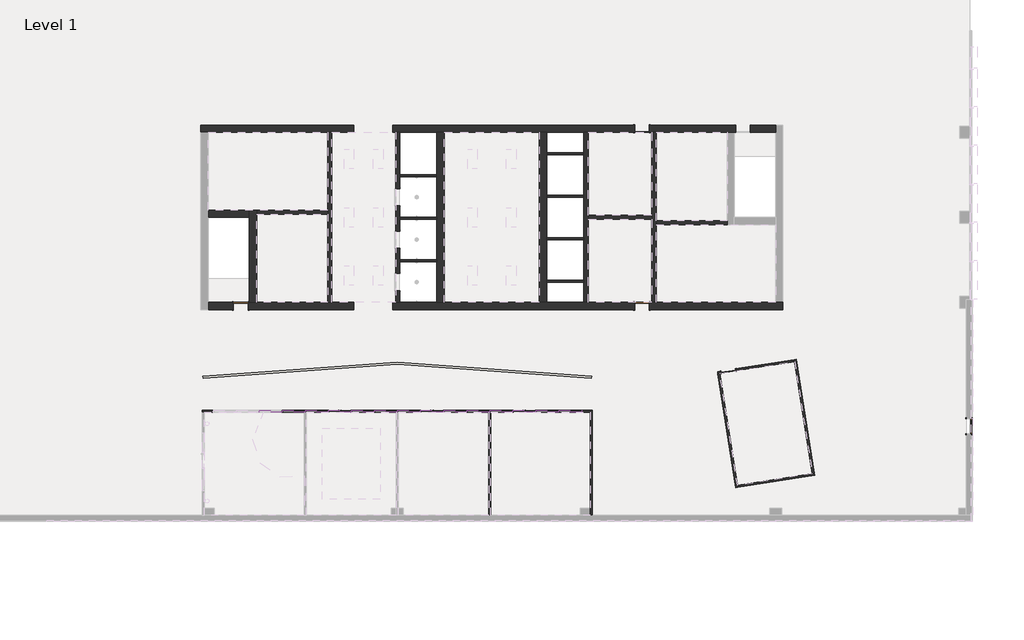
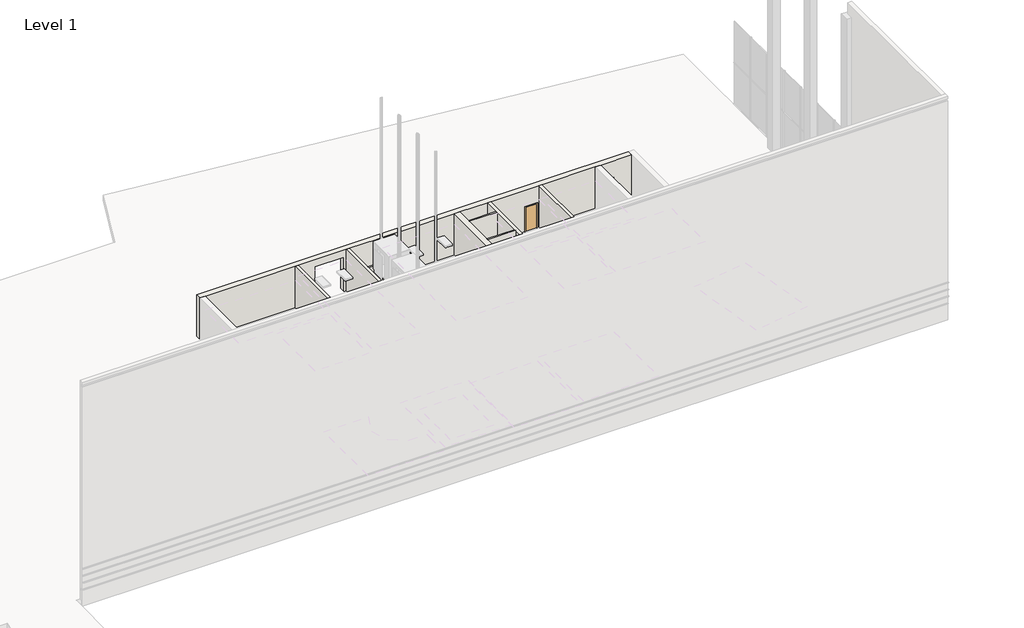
# One storey, part 7 of 23: 38 members, 28 walls, 10 plates, 8 doors.
"""IFC4 building model written with IfcOpenShell, lengths in millimetres."""

from ifc_helpers import new_model, si_unit, point, frame, frame_2d, origin, origin_with_axes, place, context, project, spatial, polyline, circle_curve, trimmed, segment, composite_curve, outline, extrude, faceted_brep, transform, mapped, element, save
from components import curtain_wall_dbl_glass_curtain_wall_dbl_glass_523d1701, door_a1797ceb, door_3c99239a, door_aec9db07, door_e057ad39, member_5adcf121, member_e7ed5742, member_19b6149e, member_c3403f11, system_panel_glazed_9bc9b24f, system_panel_glazed_76e4750d

model = new_model("IFC4")

# Units and contexts
model_context = context("Model", 3, world=origin())
ifc_project = project(units=[si_unit("LENGTHUNIT", "METRE", prefix="MILLI")], contexts=[model_context])

# Site, building, storey
site = spatial("IfcSite", under=ifc_project)
building = spatial("IfcBuilding", under=site)
storey = spatial("IfcBuildingStorey", under=building, Name="Level 1", Elevation=0.0)

# Doors
placement = place(None, origin())
curtain_wall_dbl_glass_curtain_wall_dbl_glass_shape = curtain_wall_dbl_glass_curtain_wall_dbl_glass_523d1701(model_context)
element("IfcDoor", 1, ObjectType="Curtain Wall Dbl Glass : Curtain Wall Dbl Glass", at=placement, inside=storey, context=model_context, shape_type="MappedRepresentation", body=[
    mapped(curtain_wall_dbl_glass_curtain_wall_dbl_glass_shape, transform((-24482.1740426, -21198.8103492, -25.4), x_axis=(-1.0, 0.0, 0.0), y_axis=(0.0, -1.0, 0.0), z_axis=(0.0, 0.0, 1.0))),
])
element("IfcDoor", 2, ObjectType="Curtain Wall Dbl Glass : Curtain Wall Dbl Glass", at=placement, inside=storey, context=model_context, shape_type="MappedRepresentation", body=[
    mapped(curtain_wall_dbl_glass_curtain_wall_dbl_glass_shape, transform((-18697.3240426, -21198.8103492, -25.4), x_axis=(-1.0, 0.0, 0.0), y_axis=(0.0, -1.0, 0.0), z_axis=(0.0, 0.0, 1.0))),
])
element("IfcDoor", 3, ObjectType="Curtain Wall Dbl Glass : Curtain Wall Dbl Glass", at=placement, inside=storey, context=model_context, shape_type="MappedRepresentation", body=[
    mapped(curtain_wall_dbl_glass_curtain_wall_dbl_glass_shape, transform((-12912.4740426, -21198.8103492, -25.4), x_axis=(-1.0, 0.0, 0.0), y_axis=(0.0, -1.0, 0.0), z_axis=(0.0, 0.0, 1.0))),
])
door_shape = door_a1797ceb(model_context)
element("IfcDoor", 4, ObjectType="Single-Flush : 36\" x 84\"", at=placement, inside=storey, context=model_context, shape_type="MappedRepresentation", body=[
    mapped(door_shape, transform((-99.7033757, -18682.6442583, 0.0), x_axis=(-0.9876883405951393, -0.15643446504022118, 0.0), y_axis=(0.15643446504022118, -0.9876883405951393, 0.0), z_axis=(0.0, 0.0, 1.0))),
])
door_2_shape = door_3c99239a(model_context)
element("IfcDoor", 5, ObjectType="Single-Flush : 36\" x 84\"", at=placement, inside=storey, context=model_context, shape_type="MappedRepresentation", body=[
    mapped(door_2_shape, transform((-30700.0713641, -14594.8103492, 0.0), x_axis=(1.0, 0.0, 0.0), y_axis=(0.0, 1.0, 0.0), z_axis=(0.0, 0.0, 1.0))),
])
element("IfcDoor", 6, ObjectType="Single-Flush : 36\" x 84\"", at=placement, inside=storey, context=model_context, shape_type="MappedRepresentation", body=[
    mapped(door_2_shape, transform((-5525.0427926, -14594.8103492, 0.0), x_axis=(1.0, 0.0, 0.0), y_axis=(0.0, 1.0, 0.0), z_axis=(0.0, 0.0, 1.0))),
])
door_3_shape = door_aec9db07(model_context)
element("IfcDoor", 7, ObjectType="Single-Flush : 36\" x 84\"", at=placement, inside=storey, context=model_context, shape_type="MappedRepresentation", body=[
    mapped(door_3_shape, transform((-5525.0427926, -3469.6103492, 0.0), x_axis=(1.0, 0.0, 0.0), y_axis=(0.0, 1.0, 0.0), z_axis=(0.0, 0.0, 1.0))),
])
door_4_shape = door_e057ad39(model_context)
element("IfcDoor", 8, ObjectType="Single-Glass 3 : 36\" x 84\"", at=placement, inside=storey, context=model_context, shape_type="MappedRepresentation", body=[
    mapped(door_4_shape, transform((15006.7929088, -22143.3728492, 0.0), x_axis=(0.0, -1.0, 0.0), y_axis=(1.0, 0.0, 0.0), z_axis=(0.0, 0.0, 1.0))),
])

# Members
member_shape = member_5adcf121(model_context)
element("IfcMember", 9, ObjectType="Rectangular Mullion : 2.5\" x 5\" rectangular", at=placement, inside=storey, context=model_context, shape_type="MappedRepresentation", body=[
    mapped(member_shape, transform((-28097.7052926, -21198.8103492, 38.1), x_axis=(1.0, 0.0, 0.0), y_axis=(0.0, -1.0, 0.0), z_axis=(0.0, 0.0, -1.0))),
])
element("IfcMember", 10, ObjectType="Rectangular Mullion : 2.5\" x 5\" rectangular", at=placement, inside=storey, context=model_context, shape_type="MappedRepresentation", body=[
    mapped(member_shape, transform((-26651.4927926, -21198.8103492, 38.1), x_axis=(1.0, 0.0, 0.0), y_axis=(0.0, -1.0, 0.0), z_axis=(0.0, 0.0, -1.0))),
])
element("IfcMember", 11, ObjectType="Rectangular Mullion : 2.5\" x 5\" rectangular", at=placement, inside=storey, context=model_context, shape_type="MappedRepresentation", body=[
    mapped(member_shape, transform((-25205.2802926, -21198.8103492, 38.1), x_axis=(1.0, 0.0, 0.0), y_axis=(0.0, -1.0, 0.0), z_axis=(0.0, 0.0, -1.0))),
])
element("IfcMember", 12, ObjectType="Rectangular Mullion : 2.5\" x 5\" rectangular", at=placement, inside=storey, context=model_context, shape_type="MappedRepresentation", body=[
    mapped(member_shape, transform((-23759.0677926, -21198.8103492, 38.1), x_axis=(1.0, 0.0, 0.0), y_axis=(0.0, -1.0, 0.0), z_axis=(0.0, 0.0, -1.0))),
])
element("IfcMember", 13, ObjectType="Rectangular Mullion : 2.5\" x 5\" rectangular", at=placement, inside=storey, context=model_context, shape_type="MappedRepresentation", body=[
    mapped(member_shape, transform((-22312.8552926, -21198.8103492, 38.1), x_axis=(1.0, 0.0, 0.0), y_axis=(0.0, -1.0, 0.0), z_axis=(0.0, 0.0, -1.0))),
])
element("IfcMember", 14, ObjectType="Rectangular Mullion : 2.5\" x 5\" rectangular", at=placement, inside=storey, context=model_context, shape_type="MappedRepresentation", body=[
    mapped(member_shape, transform((-20866.6427926, -21198.8103492, 38.1), x_axis=(1.0, 0.0, 0.0), y_axis=(0.0, -1.0, 0.0), z_axis=(0.0, 0.0, -1.0))),
])
element("IfcMember", 15, ObjectType="Rectangular Mullion : 2.5\" x 5\" rectangular", at=placement, inside=storey, context=model_context, shape_type="MappedRepresentation", body=[
    mapped(member_shape, transform((-19420.4302926, -21198.8103492, 38.1), x_axis=(1.0, 0.0, 0.0), y_axis=(0.0, -1.0, 0.0), z_axis=(0.0, 0.0, -1.0))),
])
element("IfcMember", 16, ObjectType="Rectangular Mullion : 2.5\" x 5\" rectangular", at=placement, inside=storey, context=model_context, shape_type="MappedRepresentation", body=[
    mapped(member_shape, transform((-17974.2177926, -21198.8103492, 38.1), x_axis=(1.0, 0.0, 0.0), y_axis=(0.0, -1.0, 0.0), z_axis=(0.0, 0.0, -1.0))),
])
element("IfcMember", 17, ObjectType="Rectangular Mullion : 2.5\" x 5\" rectangular", at=placement, inside=storey, context=model_context, shape_type="MappedRepresentation", body=[
    mapped(member_shape, transform((-16528.0052926, -21198.8103492, 38.1), x_axis=(1.0, 0.0, 0.0), y_axis=(0.0, -1.0, 0.0), z_axis=(0.0, 0.0, -1.0))),
])
element("IfcMember", 18, ObjectType="Rectangular Mullion : 2.5\" x 5\" rectangular", at=placement, inside=storey, context=model_context, shape_type="MappedRepresentation", body=[
    mapped(member_shape, transform((-15081.7927926, -21198.8103492, 38.1), x_axis=(1.0, 0.0, 0.0), y_axis=(0.0, -1.0, 0.0), z_axis=(0.0, 0.0, -1.0))),
])
element("IfcMember", 19, ObjectType="Rectangular Mullion : 2.5\" x 5\" rectangular", at=placement, inside=storey, context=model_context, shape_type="MappedRepresentation", body=[
    mapped(member_shape, transform((-13635.5802926, -21198.8103492, 38.1), x_axis=(1.0, 0.0, 0.0), y_axis=(0.0, -1.0, 0.0), z_axis=(0.0, 0.0, -1.0))),
])
element("IfcMember", 20, ObjectType="Rectangular Mullion : 2.5\" x 5\" rectangular", at=placement, inside=storey, context=model_context, shape_type="MappedRepresentation", body=[
    mapped(member_shape, transform((-12189.3677926, -21198.8103492, 38.1), x_axis=(1.0, 0.0, 0.0), y_axis=(0.0, -1.0, 0.0), z_axis=(0.0, 0.0, -1.0))),
])
element("IfcMember", 21, ObjectType="Rectangular Mullion : 2.5\" x 5\" rectangular", at=placement, inside=storey, context=model_context, shape_type="MappedRepresentation", body=[
    mapped(member_shape, transform((-10743.1552926, -21198.8103492, 38.1), x_axis=(1.0, 0.0, 0.0), y_axis=(0.0, -1.0, 0.0), z_axis=(0.0, 0.0, -1.0))),
])
member_2_shape = member_e7ed5742(model_context)
element("IfcMember", 22, ObjectType="Rectangular Mullion : 2.5\" x 5\" rectangular", at=placement, inside=storey, context=model_context, shape_type="MappedRepresentation", body=[
    mapped(member_2_shape, transform((-9296.9427926, -21198.8103492, 38.1), x_axis=(1.0, 0.0, 0.0), y_axis=(0.0, -1.0, 0.0), z_axis=(0.0, 0.0, -1.0))),
])
member_3_shape = member_19b6149e(model_context)
element("IfcMember", 23, ObjectType="Rectangular Mullion : 2.5\" x 5\" rectangular", at=placement, inside=storey, context=model_context, shape_type="MappedRepresentation", body=[
    mapped(member_3_shape, transform((-9296.9427926, -21198.8103492, 2413.0), x_axis=(0.0, 0.0, 1.0), y_axis=(0.0, -1.0, 0.0), z_axis=(1.0, 0.0, 0.0))),
])
element("IfcMember", 24, ObjectType="Rectangular Mullion : 2.5\" x 5\" rectangular", at=placement, inside=storey, context=model_context, shape_type="MappedRepresentation", body=[
    mapped(member_3_shape, transform((-28097.7052926, -21198.8103492, 2413.0), x_axis=(0.0, 0.0, 1.0), y_axis=(0.0, -1.0, 0.0), z_axis=(1.0, 0.0, 0.0))),
])
element("IfcMember", 25, ObjectType="Rectangular Mullion : 2.5\" x 5\" rectangular", at=placement, inside=storey, context=model_context, shape_type="MappedRepresentation", body=[
    mapped(member_3_shape, transform((-26651.4927926, -21198.8103492, 2413.0), x_axis=(0.0, 0.0, 1.0), y_axis=(0.0, -1.0, 0.0), z_axis=(1.0, 0.0, 0.0))),
])
element("IfcMember", 26, ObjectType="Rectangular Mullion : 2.5\" x 5\" rectangular", at=placement, inside=storey, context=model_context, shape_type="MappedRepresentation", body=[
    mapped(member_3_shape, transform((-25205.2802926, -21198.8103492, 2413.0), x_axis=(0.0, 0.0, 1.0), y_axis=(0.0, -1.0, 0.0), z_axis=(1.0, 0.0, 0.0))),
])
element("IfcMember", 27, ObjectType="Rectangular Mullion : 2.5\" x 5\" rectangular", at=placement, inside=storey, context=model_context, shape_type="MappedRepresentation", body=[
    mapped(member_3_shape, transform((-23759.0677926, -21198.8103492, 2413.0), x_axis=(0.0, 0.0, 1.0), y_axis=(0.0, -1.0, 0.0), z_axis=(1.0, 0.0, 0.0))),
])
element("IfcMember", 28, ObjectType="Rectangular Mullion : 2.5\" x 5\" rectangular", at=placement, inside=storey, context=model_context, shape_type="MappedRepresentation", body=[
    mapped(member_3_shape, transform((-22312.8552926, -21198.8103492, 2413.0), x_axis=(0.0, 0.0, 1.0), y_axis=(0.0, -1.0, 0.0), z_axis=(1.0, 0.0, 0.0))),
])
element("IfcMember", 29, ObjectType="Rectangular Mullion : 2.5\" x 5\" rectangular", at=placement, inside=storey, context=model_context, shape_type="MappedRepresentation", body=[
    mapped(member_3_shape, transform((-20866.6427926, -21198.8103492, 2413.0), x_axis=(0.0, 0.0, 1.0), y_axis=(0.0, -1.0, 0.0), z_axis=(1.0, 0.0, 0.0))),
])
element("IfcMember", 30, ObjectType="Rectangular Mullion : 2.5\" x 5\" rectangular", at=placement, inside=storey, context=model_context, shape_type="MappedRepresentation", body=[
    mapped(member_3_shape, transform((-19420.4302926, -21198.8103492, 2413.0), x_axis=(0.0, 0.0, 1.0), y_axis=(0.0, -1.0, 0.0), z_axis=(1.0, 0.0, 0.0))),
])
element("IfcMember", 31, ObjectType="Rectangular Mullion : 2.5\" x 5\" rectangular", at=placement, inside=storey, context=model_context, shape_type="MappedRepresentation", body=[
    mapped(member_3_shape, transform((-17974.2177926, -21198.8103492, 2413.0), x_axis=(0.0, 0.0, 1.0), y_axis=(0.0, -1.0, 0.0), z_axis=(1.0, 0.0, 0.0))),
])
element("IfcMember", 32, ObjectType="Rectangular Mullion : 2.5\" x 5\" rectangular", at=placement, inside=storey, context=model_context, shape_type="MappedRepresentation", body=[
    mapped(member_3_shape, transform((-16528.0052926, -21198.8103492, 2413.0), x_axis=(0.0, 0.0, 1.0), y_axis=(0.0, -1.0, 0.0), z_axis=(1.0, 0.0, 0.0))),
])
element("IfcMember", 33, ObjectType="Rectangular Mullion : 2.5\" x 5\" rectangular", at=placement, inside=storey, context=model_context, shape_type="MappedRepresentation", body=[
    mapped(member_3_shape, transform((-15081.7927926, -21198.8103492, 2413.0), x_axis=(0.0, 0.0, 1.0), y_axis=(0.0, -1.0, 0.0), z_axis=(1.0, 0.0, 0.0))),
])
element("IfcMember", 34, ObjectType="Rectangular Mullion : 2.5\" x 5\" rectangular", at=placement, inside=storey, context=model_context, shape_type="MappedRepresentation", body=[
    mapped(member_3_shape, transform((-13635.5802926, -21198.8103492, 2413.0), x_axis=(0.0, 0.0, 1.0), y_axis=(0.0, -1.0, 0.0), z_axis=(1.0, 0.0, 0.0))),
])
element("IfcMember", 35, ObjectType="Rectangular Mullion : 2.5\" x 5\" rectangular", at=placement, inside=storey, context=model_context, shape_type="MappedRepresentation", body=[
    mapped(member_3_shape, transform((-12189.3677926, -21198.8103492, 2413.0), x_axis=(0.0, 0.0, 1.0), y_axis=(0.0, -1.0, 0.0), z_axis=(1.0, 0.0, 0.0))),
])
element("IfcMember", 36, ObjectType="Rectangular Mullion : 2.5\" x 5\" rectangular", at=placement, inside=storey, context=model_context, shape_type="MappedRepresentation", body=[
    mapped(member_3_shape, transform((-10743.1552926, -21198.8103492, 2413.0), x_axis=(0.0, 0.0, 1.0), y_axis=(0.0, -1.0, 0.0), z_axis=(1.0, 0.0, 0.0))),
])
element("IfcMember", 37, ObjectType="Rectangular Mullion : 2.5\" x 5\" rectangular", at=placement, inside=storey, context=model_context, shape_type="MappedRepresentation", body=[
    mapped(member_3_shape, transform((-28097.7052926, -21198.8103492, -25.4), x_axis=(0.0, 0.0, -1.0), y_axis=(0.0, -1.0, 0.0), z_axis=(-1.0, 0.0, 0.0))),
])
element("IfcMember", 38, ObjectType="Rectangular Mullion : 2.5\" x 5\" rectangular", at=placement, inside=storey, context=model_context, shape_type="MappedRepresentation", body=[
    mapped(member_3_shape, transform((-22312.8552926, -21198.8103492, -25.4), x_axis=(0.0, 0.0, -1.0), y_axis=(0.0, -1.0, 0.0), z_axis=(-1.0, 0.0, 0.0))),
])
element("IfcMember", 39, ObjectType="Rectangular Mullion : 2.5\" x 5\" rectangular", at=placement, inside=storey, context=model_context, shape_type="MappedRepresentation", body=[
    mapped(member_3_shape, transform((-16528.0052926, -21198.8103492, -25.4), x_axis=(0.0, 0.0, -1.0), y_axis=(0.0, -1.0, 0.0), z_axis=(-1.0, 0.0, 0.0))),
])
element("IfcMember", 40, ObjectType="Rectangular Mullion : 2.5\" x 5\" rectangular", at=placement, inside=storey, context=model_context, shape_type="MappedRepresentation", body=[
    mapped(member_3_shape, transform((-10743.1552926, -21198.8103492, -25.4), x_axis=(0.0, 0.0, -1.0), y_axis=(0.0, -1.0, 0.0), z_axis=(-1.0, 0.0, 0.0))),
])
member_4_shape = member_c3403f11(model_context)
element("IfcMember", 41, ObjectType="Rectangular Mullion : 2.5\" x 5\" rectangular", at=placement, inside=storey, context=model_context, shape_type="MappedRepresentation", body=[
    mapped(member_4_shape, transform((-26651.4927926, -21198.8103492, -25.4), x_axis=(0.0, 0.0, -1.0), y_axis=(0.0, -1.0, 0.0), z_axis=(-1.0, 0.0, 0.0))),
])
element("IfcMember", 42, ObjectType="Rectangular Mullion : 2.5\" x 5\" rectangular", at=placement, inside=storey, context=model_context, shape_type="MappedRepresentation", body=[
    mapped(member_4_shape, transform((-20866.6427926, -21198.8103492, -25.4), x_axis=(0.0, 0.0, -1.0), y_axis=(0.0, -1.0, 0.0), z_axis=(-1.0, 0.0, 0.0))),
])
element("IfcMember", 43, ObjectType="Rectangular Mullion : 2.5\" x 5\" rectangular", at=placement, inside=storey, context=model_context, shape_type="MappedRepresentation", body=[
    mapped(member_4_shape, transform((-15081.7927926, -21198.8103492, -25.4), x_axis=(0.0, 0.0, -1.0), y_axis=(0.0, -1.0, 0.0), z_axis=(-1.0, 0.0, 0.0))),
])
element("IfcMember", 44, ObjectType="Rectangular Mullion : 2.5\" x 5\" rectangular", at=placement, inside=storey, context=model_context, shape_type="MappedRepresentation", body=[
    mapped(member_4_shape, transform((-23790.8177926, -21198.8103492, -25.4), x_axis=(0.0, 0.0, -1.0), y_axis=(0.0, -1.0, 0.0), z_axis=(-1.0, 0.0, 0.0))),
])
element("IfcMember", 45, ObjectType="Rectangular Mullion : 2.5\" x 5\" rectangular", at=placement, inside=storey, context=model_context, shape_type="MappedRepresentation", body=[
    mapped(member_4_shape, transform((-18005.9677926, -21198.8103492, -25.4), x_axis=(0.0, 0.0, -1.0), y_axis=(0.0, -1.0, 0.0), z_axis=(-1.0, 0.0, 0.0))),
])
element("IfcMember", 46, ObjectType="Rectangular Mullion : 2.5\" x 5\" rectangular", at=placement, inside=storey, context=model_context, shape_type="MappedRepresentation", body=[
    mapped(member_4_shape, transform((-12221.1177926, -21198.8103492, -25.4), x_axis=(0.0, 0.0, -1.0), y_axis=(0.0, -1.0, 0.0), z_axis=(-1.0, 0.0, 0.0))),
])

# Plates
system_panel_glazed_shape = system_panel_glazed_9bc9b24f(model_context)
element("IfcPlate", 47, ObjectType="System Panel : Glazed", at=placement, inside=storey, context=model_context, shape_type="MappedRepresentation", body=[
    mapped(system_panel_glazed_shape, transform((-10035.9240426, -21198.8103492, 38.1), x_axis=(1.0, 0.0, 0.0), y_axis=(0.0, 1.0, 0.0), z_axis=(0.0, 0.0, 1.0))),
])
system_panel_glazed_2_shape = system_panel_glazed_76e4750d(model_context)
element("IfcPlate", 48, ObjectType="System Panel : Glazed", at=placement, inside=storey, context=model_context, shape_type="MappedRepresentation", body=[
    mapped(system_panel_glazed_2_shape, transform((-27374.5990426, -21198.8103492, 38.1), x_axis=(1.0, 0.0, 0.0), y_axis=(0.0, 1.0, 0.0), z_axis=(0.0, 0.0, 1.0))),
])
element("IfcPlate", 49, ObjectType="System Panel : Glazed", at=placement, inside=storey, context=model_context, shape_type="MappedRepresentation", body=[
    mapped(system_panel_glazed_2_shape, transform((-25928.3865426, -21198.8103492, 38.1), x_axis=(1.0, 0.0, 0.0), y_axis=(0.0, 1.0, 0.0), z_axis=(0.0, 0.0, 1.0))),
])
element("IfcPlate", 50, ObjectType="System Panel : Glazed", at=placement, inside=storey, context=model_context, shape_type="MappedRepresentation", body=[
    mapped(system_panel_glazed_2_shape, transform((-23035.9615426, -21198.8103492, 38.1), x_axis=(1.0, 0.0, 0.0), y_axis=(0.0, 1.0, 0.0), z_axis=(0.0, 0.0, 1.0))),
])
element("IfcPlate", 51, ObjectType="System Panel : Glazed", at=placement, inside=storey, context=model_context, shape_type="MappedRepresentation", body=[
    mapped(system_panel_glazed_2_shape, transform((-21589.7490426, -21198.8103492, 38.1), x_axis=(1.0, 0.0, 0.0), y_axis=(0.0, 1.0, 0.0), z_axis=(0.0, 0.0, 1.0))),
])
element("IfcPlate", 52, ObjectType="System Panel : Glazed", at=placement, inside=storey, context=model_context, shape_type="MappedRepresentation", body=[
    mapped(system_panel_glazed_2_shape, transform((-20143.5365426, -21198.8103492, 38.1), x_axis=(1.0, 0.0, 0.0), y_axis=(0.0, 1.0, 0.0), z_axis=(0.0, 0.0, 1.0))),
])
element("IfcPlate", 53, ObjectType="System Panel : Glazed", at=placement, inside=storey, context=model_context, shape_type="MappedRepresentation", body=[
    mapped(system_panel_glazed_2_shape, transform((-17251.1115426, -21198.8103492, 38.1), x_axis=(1.0, 0.0, 0.0), y_axis=(0.0, 1.0, 0.0), z_axis=(0.0, 0.0, 1.0))),
])
element("IfcPlate", 54, ObjectType="System Panel : Glazed", at=placement, inside=storey, context=model_context, shape_type="MappedRepresentation", body=[
    mapped(system_panel_glazed_2_shape, transform((-15804.8990426, -21198.8103492, 38.1), x_axis=(1.0, 0.0, 0.0), y_axis=(0.0, 1.0, 0.0), z_axis=(0.0, 0.0, 1.0))),
])
element("IfcPlate", 55, ObjectType="System Panel : Glazed", at=placement, inside=storey, context=model_context, shape_type="MappedRepresentation", body=[
    mapped(system_panel_glazed_2_shape, transform((-14358.6865426, -21198.8103492, 38.1), x_axis=(1.0, 0.0, 0.0), y_axis=(0.0, 1.0, 0.0), z_axis=(0.0, 0.0, 1.0))),
])
element("IfcPlate", 56, ObjectType="System Panel : Glazed", at=placement, inside=storey, context=model_context, shape_type="MappedRepresentation", body=[
    mapped(system_panel_glazed_2_shape, transform((-11466.2615426, -21198.8103492, 38.1), x_axis=(1.0, 0.0, 0.0), y_axis=(0.0, 1.0, 0.0), z_axis=(0.0, 0.0, 1.0))),
])

# Walls
element("IfcWall", 57, ObjectType="Core-shaft 10\" Concrete", at=placement, inside=storey, context=model_context, shape_type="SweptSolid", body=[
    extrude(outline(polyline([(-14366.2103492, 3657.6), (-3698.2103492, 3657.6), (-3698.2103492, 0.0), (-7222.4603492, 0.0), (-7222.4603492, 2159.0), (-8301.9603492, 2159.0), (-8301.9603492, 0.0), (-9889.4603492, 0.0), (-9889.4603492, 2159.0), (-10968.9603492, 2159.0), (-10968.9603492, 0.0), (-12556.4603492, 0.0), (-12556.4603492, 2159.0), (-13635.9603492, 2159.0), (-13635.9603492, 0.0), (-14366.2103492, 0.0), (-14366.2103492, 3657.6)])), frame((-20979.1285069, 0.0, 0.0), z_axis=(1.0, 0.0, 0.0), x_axis=(0.0, 1.0, 0.0)), (0.0, 0.0, 1.0), 254.0),
])
element("IfcWall", 58, ObjectType="Core-shaft 10\" Concrete", at=placement, inside=storey, context=model_context, shape_type="Brep", body=[
    faceted_brep([(-24992.3285069, -14366.2103492, 0.0), (-24992.3285069, -3698.2103492, 0.0), (-24992.3285069, -3698.2103492, 3657.6), (-24992.3285069, -14366.2103492, 3657.6), (-25246.3285069, -14366.2103492, 0.0), (-25246.3285069, -14366.2103492, 3657.6), (-25246.3285069, -8829.0103492, 3657.6), (-25246.3285069, -8575.0103492, 3657.6), (-25246.3285069, -3698.2103492, 3657.6), (-25246.3285069, -3698.2103492, 0.0), (-25246.3285069, -8575.0103492, 0.0), (-25246.3285069, -8829.0103492, 0.0)], [[[0, 1, 2, 3]], [[4, 5, 6, 7, 8, 9, 10, 11]], [[1, 0, 4, 11, 10, 9]], [[3, 2, 8, 7, 6, 5]], [[2, 1, 9, 8]], [[0, 3, 5, 4]]]),
])
element("IfcWall", 59, ObjectType="Core-shaft 10\" Concrete", at=placement, inside=storey, context=model_context, shape_type="SweptSolid", body=[
    extrude(outline(polyline([(-25246.3285069, -8829.0103492), (-29709.4713641, -8829.0103492), (-29709.4713641, -8575.0103492), (-25246.3285069, -8575.0103492), (-25246.3285069, -8829.0103492)])), origin_with_axes(), (0.0, 0.0, 1.0), 3657.6),
])
element("IfcWall", 60, ObjectType="Core-shaft 10\" Concrete", at=placement, inside=storey, context=model_context, shape_type="SweptSolid", body=[
    extrude(outline(polyline([(-8903.2427926, -3698.2103492), (-8903.2427926, -14366.2103492), (-9157.2427926, -14366.2103492), (-9157.2427926, -3698.2103492), (-8903.2427926, -3698.2103492)])), origin_with_axes(), (0.0, 0.0, 1.0), 3657.6),
])
element("IfcWall", 61, ObjectType="Core-shaft 10\" Concrete", at=placement, inside=storey, context=model_context, shape_type="Brep", body=[
    faceted_brep([(-4636.0427926, -14366.2103492, 0.0), (-4636.0427926, -9489.4103492, 0.0), (-4636.0427926, -9235.4103492, 0.0), (-4636.0427926, -3698.2103492, 0.0), (-4636.0427926, -3698.2103492, 3657.6), (-4636.0427926, -9235.4103492, 3657.6), (-4636.0427926, -9489.4103492, 3657.6), (-4636.0427926, -14366.2103492, 3657.6), (-4890.0427926, -14366.2103492, 0.0), (-4890.0427926, -14366.2103492, 3657.6), (-4890.0427926, -3698.2103492, 3657.6), (-4890.0427926, -3698.2103492, 0.0)], [[[0, 1, 2, 3, 4, 5, 6, 7]], [[8, 9, 10, 11]], [[3, 2, 1, 0, 8, 11]], [[7, 6, 5, 4, 10, 9]], [[4, 3, 11, 10]], [[0, 7, 9, 8]]]),
])
element("IfcWall", 62, ObjectType="Core-shaft 10\" Concrete", at=placement, inside=storey, context=model_context, shape_type="SweptSolid", body=[
    extrude(outline(polyline([(-4636.0427926, -9235.4103492), (-172.8999355, -9235.4103492), (-172.8999355, -9489.4103492), (-4636.0427926, -9489.4103492), (-4636.0427926, -9235.4103492)])), origin_with_axes(), (0.0, 0.0, 1.0), 3657.6),
])
element("IfcWall", 63, ObjectType="Core-shaft 10\" Concrete", at=placement, inside=storey, context=model_context, shape_type="SweptSolid", body=[
    extrude(outline(polyline([(-8903.2427926, -8905.2103492), (-4890.0427926, -8905.2103492), (-4890.0427926, -9159.2103492), (-8903.2427926, -9159.2103492), (-8903.2427926, -8905.2103492)])), origin_with_axes(), (0.0, 0.0, 1.0), 3657.6),
])
element("IfcWall", 64, ObjectType="Core-shaft 18\" Concrete", at=placement, inside=storey, context=model_context, shape_type="Brep", body=[
    faceted_brep([(3325.0429217, -14366.2103492, 0.0), (2867.8429217, -14366.2103492, 0.0), (-4636.0427926, -14366.2103492, 0.0), (-4890.0427926, -14366.2103492, 0.0), (-5067.8427926, -14366.2103492, 0.0), (-5067.8427926, -14366.2103492, 2133.6), (-5982.2427926, -14366.2103492, 2133.6), (-5982.2427926, -14366.2103492, 0.0), (-8903.2427926, -14366.2103492, 0.0), (-9157.2427926, -14366.2103492, 0.0), (-11497.2428559, -14366.2103492, 0.0), (-11954.4428559, -14366.2103492, 0.0), (-17927.9284437, -14366.2103492, 0.0), (-18385.1284437, -14366.2103492, 0.0), (-20725.1285069, -14366.2103492, 0.0), (-20979.1285069, -14366.2103492, 0.0), (-21167.8142212, -14366.2103492, 0.0), (-21167.8142212, -14366.2103492, 3048.0), (-23606.2142212, -14366.2103492, 3048.0), (-23606.2142212, -14366.2103492, 0.0), (-24992.3285069, -14366.2103492, 0.0), (-25246.3285069, -14366.2103492, 0.0), (-29709.4713641, -14366.2103492, 0.0), (-30166.6713641, -14366.2103492, 0.0), (-30242.8713641, -14366.2103492, 0.0), (-30242.8713641, -14366.2103492, 2133.6), (-31157.2713641, -14366.2103492, 2133.6), (-31157.2713641, -14366.2103492, 0.0), (-32750.2142212, -14366.2103492, 0.0), (-32750.2142212, -14366.2103492, 3657.6), (-30166.6713641, -14366.2103492, 3657.6), (-29709.4713641, -14366.2103492, 3657.6), (-25246.3285069, -14366.2103492, 3657.6), (-24992.3285069, -14366.2103492, 3657.6), (-20979.1285069, -14366.2103492, 3657.6), (-20725.1285069, -14366.2103492, 3657.6), (-18385.1284437, -14366.2103492, 3657.6), (-17927.9284437, -14366.2103492, 3657.6), (-11954.4428559, -14366.2103492, 3657.6), (-11497.2428559, -14366.2103492, 3657.6), (-9157.2427926, -14366.2103492, 3657.6), (-8903.2427926, -14366.2103492, 3657.6), (-4890.0427926, -14366.2103492, 3657.6), (-4636.0427926, -14366.2103492, 3657.6), (2867.8429217, -14366.2103492, 3657.6), (3325.0429217, -14366.2103492, 3657.6), (-5067.8427926, -14823.4103492, 2133.6), (-5067.8427926, -14823.4103492, 0.0), (3325.0429217, -14823.4103492, 0.0), (3325.0429217, -14823.4103492, 3657.6), (-32750.2142212, -14823.4103492, 3657.6), (-32750.2142212, -14823.4103492, 0.0), (-31157.2713641, -14823.4103492, 0.0), (-31157.2713641, -14823.4103492, 2133.6), (-30242.8713641, -14823.4103492, 2133.6), (-30242.8713641, -14823.4103492, 0.0), (-23606.2142212, -14823.4103492, 0.0), (-23606.2142212, -14823.4103492, 3048.0), (-21167.8142212, -14823.4103492, 3048.0), (-21167.8142212, -14823.4103492, 0.0), (-5982.2427926, -14823.4103492, 0.0), (-5982.2427926, -14823.4103492, 2133.6)], [[[0, 1, 2, 3, 4, 5, 6, 7, 8, 9, 10, 11, 12, 13, 14, 15, 16, 17, 18, 19, 20, 21, 22, 23, 24, 25, 26, 27, 28, 29, 30, 31, 32, 33, 34, 35, 36, 37, 38, 39, 40, 41, 42, 43, 44, 45]], [[46, 47, 48, 49, 50, 51, 52, 53, 54, 55, 56, 57, 58, 59, 60, 61]], [[52, 51, 28, 27]], [[56, 55, 24, 23, 22, 21, 20, 19]], [[60, 59, 16, 15, 14, 13, 12, 11, 10, 9, 8, 7]], [[48, 47, 4, 3, 2, 1, 0]], [[45, 44, 43, 42, 41, 40, 39, 38, 37, 36, 35, 34, 33, 32, 31, 30, 29, 50, 49]], [[17, 58, 57, 18]], [[58, 17, 16, 59]], [[18, 57, 56, 19]], [[25, 24, 55, 54]], [[26, 25, 54, 53]], [[27, 26, 53, 52]], [[0, 45, 49, 48]], [[29, 28, 51, 50]], [[5, 4, 47, 46]], [[6, 5, 46, 61]], [[7, 6, 61, 60]]]),
])
element("IfcWall", 65, ObjectType="Core-shaft 18\" Concrete", at=placement, inside=storey, context=model_context, shape_type="Brep", body=[
    faceted_brep([(-5067.8427926, -3698.2103492, 2133.6), (-5067.8427926, -3698.2103492, 0.0), (-4890.0427926, -3698.2103492, 0.0), (-4636.0427926, -3698.2103492, 0.0), (-172.8999355, -3698.2103492, 0.0), (284.3000645, -3698.2103492, 0.0), (360.5000645, -3698.2103492, 0.0), (360.5000645, -3698.2103492, 2133.6), (1274.9000645, -3698.2103492, 2133.6), (1274.9000645, -3698.2103492, 0.0), (2867.8429217, -3698.2103492, 0.0), (2867.8429217, -3698.2103492, 3657.6), (284.3000645, -3698.2103492, 3657.6), (-172.8999355, -3698.2103492, 3657.6), (-4636.0427926, -3698.2103492, 3657.6), (-4890.0427926, -3698.2103492, 3657.6), (-8903.2427926, -3698.2103492, 3657.6), (-9157.2427926, -3698.2103492, 3657.6), (-11497.2428559, -3698.2103492, 3657.6), (-11954.4428559, -3698.2103492, 3657.6), (-17927.9284437, -3698.2103492, 3657.6), (-18385.1284437, -3698.2103492, 3657.6), (-20725.1285069, -3698.2103492, 3657.6), (-20979.1285069, -3698.2103492, 3657.6), (-24992.3285069, -3698.2103492, 3657.6), (-25246.3285069, -3698.2103492, 3657.6), (-32750.2142212, -3698.2103492, 3657.6), (-33207.4142212, -3698.2103492, 3657.6), (-33207.4142212, -3698.2103492, 0.0), (-32750.2142212, -3698.2103492, 0.0), (-25246.3285069, -3698.2103492, 0.0), (-24992.3285069, -3698.2103492, 0.0), (-23606.2142212, -3698.2103492, 0.0), (-23606.2142212, -3698.2103492, 3048.0), (-21167.8142212, -3698.2103492, 3048.0), (-21167.8142212, -3698.2103492, 0.0), (-20979.1285069, -3698.2103492, 0.0), (-20725.1285069, -3698.2103492, 0.0), (-18385.1284437, -3698.2103492, 0.0), (-17927.9284437, -3698.2103492, 0.0), (-11954.4428559, -3698.2103492, 0.0), (-11497.2428559, -3698.2103492, 0.0), (-9157.2427926, -3698.2103492, 0.0), (-8903.2427926, -3698.2103492, 0.0), (-5982.2427926, -3698.2103492, 0.0), (-5982.2427926, -3698.2103492, 2133.6), (360.5000645, -3241.0103492, 0.0), (-5067.8427926, -3241.0103492, 0.0), (-5067.8427926, -3241.0103492, 2133.6), (-5982.2427926, -3241.0103492, 2133.6), (-5982.2427926, -3241.0103492, 0.0), (-21167.8142212, -3241.0103492, 0.0), (-21167.8142212, -3241.0103492, 3048.0), (-23606.2142212, -3241.0103492, 3048.0), (-23606.2142212, -3241.0103492, 0.0), (-33207.4142212, -3241.0103492, 0.0), (-33207.4142212, -3241.0103492, 3657.6), (2867.8429217, -3241.0103492, 3657.6), (2867.8429217, -3241.0103492, 0.0), (1274.9000645, -3241.0103492, 0.0), (1274.9000645, -3241.0103492, 2133.6), (360.5000645, -3241.0103492, 2133.6)], [[[0, 1, 2, 3, 4, 5, 6, 7, 8, 9, 10, 11, 12, 13, 14, 15, 16, 17, 18, 19, 20, 21, 22, 23, 24, 25, 26, 27, 28, 29, 30, 31, 32, 33, 34, 35, 36, 37, 38, 39, 40, 41, 42, 43, 44, 45]], [[46, 47, 48, 49, 50, 51, 52, 53, 54, 55, 56, 57, 58, 59, 60, 61]], [[28, 55, 54, 32, 31, 30, 29]], [[59, 58, 10, 9]], [[44, 43, 42, 41, 40, 39, 38, 37, 36, 35, 51, 50]], [[6, 5, 4, 3, 2, 1, 47, 46]], [[27, 26, 25, 24, 23, 22, 21, 20, 19, 18, 17, 16, 15, 14, 13, 12, 11, 57, 56]], [[33, 53, 52, 34]], [[53, 33, 32, 54]], [[34, 52, 51, 35]], [[7, 6, 46, 61]], [[8, 7, 61, 60]], [[9, 8, 60, 59]], [[28, 27, 56, 55]], [[11, 10, 58, 57]], [[48, 47, 1, 0]], [[49, 48, 0, 45]], [[50, 49, 45, 44]]]),
])
element("IfcWall", 66, ObjectType="Core-shaft 18\" Concrete", at=placement, inside=storey, context=model_context, shape_type="SweptSolid", body=[
    extrude(outline(polyline([(-18385.1284437, -14366.2103492), (-18385.1284437, -3698.2103492), (-17927.9284437, -3698.2103492), (-17927.9284437, -14366.2103492), (-18385.1284437, -14366.2103492)])), origin_with_axes(), (0.0, 0.0, 1.0), 3657.6),
])
element("IfcWall", 67, ObjectType="Core-shaft 18\" Concrete", at=placement, inside=storey, context=model_context, shape_type="Brep", body=[
    faceted_brep([(-29709.4713641, -14366.2103492, 0.0), (-29709.4713641, -8829.0103492, 0.0), (-29709.4713641, -8575.0103492, 0.0), (-29709.4713641, -8575.0103492, 3657.6), (-29709.4713641, -8829.0103492, 3657.6), (-29709.4713641, -14366.2103492, 3657.6), (-30166.6713641, -14366.2103492, 0.0), (-30166.6713641, -14366.2103492, 3657.6), (-30166.6713641, -9032.2103492, 3657.6), (-30166.6713641, -8575.0103492, 3657.6), (-30166.6713641, -8575.0103492, 0.0), (-30166.6713641, -9032.2103492, 0.0)], [[[0, 1, 2, 3, 4, 5]], [[6, 7, 8, 9, 10, 11]], [[2, 1, 0, 6, 11, 10]], [[5, 4, 3, 9, 8, 7]], [[3, 2, 10, 9]], [[0, 5, 7, 6]]]),
])
element("IfcWall", 68, ObjectType="Core-shaft 18\" Concrete", at=placement, inside=storey, context=model_context, shape_type="SweptSolid", body=[
    extrude(outline(polyline([(-32750.2142212, -8575.0103492), (-30166.6713641, -8575.0103492), (-30166.6713641, -9032.2103492), (-32750.2142212, -9032.2103492), (-32750.2142212, -8575.0103492)])), origin_with_axes(), (0.0, 0.0, 1.0), 3657.6),
])
element("IfcWall", 69, ObjectType="Core-shaft 18\" Concrete", at=placement, inside=storey, context=model_context, shape_type="SweptSolid", body=[
    extrude(outline(polyline([(-11954.4428559, -14366.2103492), (-11954.4428559, -3698.2103492), (-11497.2428559, -3698.2103492), (-11497.2428559, -14366.2103492), (-11954.4428559, -14366.2103492)])), origin_with_axes(), (0.0, 0.0, 1.0), 3657.6),
])
element("IfcWall", 70, ObjectType="Generic - 5\"", at=placement, inside=storey, context=model_context, shape_type="Brep", body=[
    faceted_brep([(5300.9078186, -25096.9642, 0.0), (5175.4713993, -25116.831377, 0.0), (484.1493191, -25859.8637991, 0.0), (484.1493191, -25859.8637991, 3657.6), (5175.4713993, -25116.831377, 3657.6), (5300.9078186, -25096.9642, 3657.6), (5320.7749956, -25222.4006192, 0.0), (5320.7749956, -25222.4006192, 3657.6), (504.0164962, -25985.3002183, 3657.6), (504.0164962, -25985.3002183, 0.0)], [[[0, 1, 2, 3, 4, 5]], [[6, 7, 8, 9]], [[2, 1, 0, 6, 9]], [[5, 4, 3, 8, 7]], [[0, 5, 7, 6]], [[3, 2, 9, 8]]]),
])
element("IfcWall", 71, ObjectType="Generic - 5\"", at=placement, inside=storey, context=model_context, shape_type="Brep", body=[
    faceted_brep([(4042.3085131, -17962.322488, 0.0), (4062.1756902, -18087.7589073, 0.0), (5175.4713993, -25116.831377, 0.0), (5175.4713993, -25116.831377, 3657.6), (4062.1756902, -18087.7589073, 3657.6), (4042.3085131, -17962.322488, 3657.6), (4167.7449324, -17942.455311, 0.0), (4167.7449324, -17942.455311, 3657.6), (5300.9078186, -25096.9642, 3657.6), (5300.9078186, -25096.9642, 0.0)], [[[0, 1, 2, 3, 4, 5]], [[6, 7, 8, 9]], [[2, 1, 0, 6, 9]], [[5, 4, 3, 8, 7]], [[0, 5, 7, 6]], [[3, 2, 9, 8]]]),
])
element("IfcWall", 72, ObjectType="Generic - 5\"", at=placement, inside=storey, context=model_context, shape_type="Brep", body=[
    faceted_brep([(-754.5828092, -18850.6585064, 0.0), (-629.14639, -18830.7913293, 0.0), (-541.3408965, -18816.8843054, 0.0), (-541.3408965, -18816.8843054, 2133.6), (361.8013221, -18673.8406306, 2133.6), (361.8013221, -18673.8406306, 0.0), (4062.1756902, -18087.7589073, 0.0), (4062.1756902, -18087.7589073, 3657.6), (-629.14639, -18830.7913293, 3657.6), (-754.5828092, -18850.6585064, 3657.6), (-561.2080736, -18691.4478861, 2133.6), (-561.2080736, -18691.4478861, 0.0), (-774.4499863, -18725.2220871, 0.0), (-774.4499863, -18725.2220871, 3657.6), (4042.3085131, -17962.322488, 3657.6), (4042.3085131, -17962.322488, 0.0), (341.9341451, -18548.4042113, 0.0), (341.9341451, -18548.4042113, 2133.6)], [[[0, 1, 2, 3, 4, 5, 6, 7, 8, 9]], [[10, 11, 12, 13, 14, 15, 16, 17]], [[16, 15, 6, 5]], [[12, 11, 2, 1, 0]], [[9, 8, 7, 14, 13]], [[0, 9, 13, 12]], [[7, 6, 15, 14]], [[3, 2, 11, 10]], [[4, 3, 10, 17]], [[5, 4, 17, 16]]]),
])
element("IfcWall", 73, ObjectType="Generic - 5\"", at=placement, inside=storey, context=model_context, shape_type="Brep", body=[
    faceted_brep([(504.0164962, -25985.3002183, 0.0), (484.1493191, -25859.8637991, 0.0), (-629.14639, -18830.7913293, 0.0), (-629.14639, -18830.7913293, 3657.6), (484.1493191, -25859.8637991, 3657.6), (504.0164962, -25985.3002183, 3657.6), (378.5800769, -26005.1673954, 0.0), (378.5800769, -26005.1673954, 3657.6), (-754.5828092, -18850.6585064, 3657.6), (-754.5828092, -18850.6585064, 0.0)], [[[0, 1, 2, 3, 4, 5]], [[6, 7, 8, 9]], [[2, 1, 0, 6, 9]], [[5, 4, 3, 8, 7]], [[0, 5, 7, 6]], [[3, 2, 9, 8]]]),
])
element("IfcWall", 74, ObjectType="Generic - 5\"", at=placement, inside=storey, context=model_context, shape_type="SweptSolid", body=[
    extrude(outline(polyline([(-18385.1284437, -11826.2103492), (-20725.1285069, -11826.2103492), (-20725.1285069, -11699.2103492), (-18385.1284437, -11699.2103492), (-18385.1284437, -11826.2103492)])), origin_with_axes(), (0.0, 0.0, 1.0), 3657.6),
])
element("IfcWall", 75, ObjectType="Generic - 5\"", at=placement, inside=storey, context=model_context, shape_type="SweptSolid", body=[
    extrude(outline(polyline([(-18385.1284437, -9159.2103492), (-20725.1285069, -9159.2103492), (-20725.1285069, -9032.2103492), (-18385.1284437, -9032.2103492), (-18385.1284437, -9159.2103492)])), origin_with_axes(), (0.0, 0.0, 1.0), 3657.6),
])
element("IfcWall", 76, ObjectType="Generic - 5\"", at=placement, inside=storey, context=model_context, shape_type="SweptSolid", body=[
    extrude(outline(polyline([(-18385.1284437, -6492.2103492), (-20725.1285069, -6492.2103492), (-20725.1285069, -6365.2103492), (-18385.1284437, -6365.2103492), (-18385.1284437, -6492.2103492)])), origin_with_axes(), (0.0, 0.0, 1.0), 3657.6),
])
element("IfcWall", 77, ObjectType="Generic - 5\"", at=placement, inside=storey, context=model_context, shape_type="SweptSolid", body=[
    extrude(outline(polyline([(-11497.2428559, -10302.2103492), (-9157.2427926, -10302.2103492), (-9157.2427926, -10429.2103492), (-11497.2428559, -10429.2103492), (-11497.2428559, -10302.2103492)])), origin_with_axes(), (0.0, 0.0, 1.0), 3657.6),
])
element("IfcWall", 78, ObjectType="Generic - 5\"", at=placement, inside=storey, context=model_context, shape_type="SweptSolid", body=[
    extrude(outline(polyline([(-11497.2428559, -7635.2103492), (-9157.2427926, -7635.2103492), (-9157.2427926, -7762.2103492), (-11497.2428559, -7762.2103492), (-11497.2428559, -7635.2103492)])), origin_with_axes(), (0.0, 0.0, 1.0), 3657.6),
])
element("IfcWall", 79, ObjectType="Generic - 5\"", at=placement, inside=storey, context=model_context, shape_type="SweptSolid", body=[
    extrude(outline(polyline([(-11497.2428559, -4968.2103492), (-9157.2427926, -4968.2103492), (-9157.2427926, -5095.2103492), (-11497.2428559, -5095.2103492), (-11497.2428559, -4968.2103492)])), origin_with_axes(), (0.0, 0.0, 1.0), 3657.6),
])
element("IfcWall", 80, ObjectType="Generic - 5\"", at=placement, inside=storey, context=model_context, shape_type="SweptSolid", body=[
    extrude(outline(polyline([(-11497.2428559, -12969.2103492), (-9157.2427926, -12969.2103492), (-9157.2427926, -13096.2103492), (-11497.2428559, -13096.2103492), (-11497.2428559, -12969.2103492)])), origin_with_axes(), (0.0, 0.0, 1.0), 3657.6),
])
element("IfcWall", 81, ObjectType="Interior - Generic - 5\"", at=placement, inside=storey, context=model_context, shape_type="Brep", body=[
    faceted_brep([(-8623.8427926, -27729.7853492, 0.0), (-8623.8427926, -21135.3103492, 0.0), (-8623.8427926, -21135.3103492, 3657.6), (-8623.8427926, -27729.7853492, 3657.6), (-8750.8427926, -27729.7853492, 0.0), (-8750.8427926, -27729.7853492, 3657.6), (-8750.8427926, -21262.3103492, 3657.6), (-8750.8427926, -21135.3103492, 3657.6), (-8750.8427926, -21135.3103492, 0.0), (-8750.8427926, -21262.3103492, 0.0)], [[[0, 1, 2, 3]], [[4, 5, 6, 7, 8, 9]], [[1, 0, 4, 9, 8]], [[3, 2, 7, 6, 5]], [[2, 1, 8, 7]], [[0, 3, 5, 4]]]),
])
element("IfcWall", 82, ObjectType="Interior - Generic - 5\"", at=placement, inside=storey, context=model_context, shape_type="Brep", body=[
    faceted_brep([(-33131.2142212, -21135.3103492, 3657.6), (-8750.8427926, -21135.3103492, 3657.6), (-8750.8427926, -21135.3103492, 0.0), (-9296.9427926, -21135.3103492, 0.0), (-9296.9427926, -21135.3103492, 2413.0), (-32436.3427926, -21135.3103492, 2413.0), (-32436.3427926, -21135.3103492, 0.0), (-33131.2142212, -21135.3103492, 0.0), (-8750.8427926, -21262.3103492, 3657.6), (-15018.2927926, -21262.3103492, 3657.6), (-15145.2927926, -21262.3103492, 3657.6), (-20814.0285069, -21262.3103492, 3657.6), (-20941.0285069, -21262.3103492, 3657.6), (-26587.9927926, -21262.3103492, 3657.6), (-26714.9927926, -21262.3103492, 3657.6), (-33004.2142212, -21262.3103492, 3657.6), (-33131.2142212, -21262.3103492, 3657.6), (-33131.2142212, -21262.3103492, 0.0), (-33004.2142212, -21262.3103492, 0.0), (-32436.3427926, -21262.3103492, 0.0), (-32436.3427926, -21262.3103492, 2413.0), (-9296.9427926, -21262.3103492, 2413.0), (-9296.9427926, -21262.3103492, 0.0), (-8750.8427926, -21262.3103492, 0.0)], [[[0, 1, 2, 3, 4, 5, 6, 7]], [[8, 9, 10, 11, 12, 13, 14, 15, 16, 17, 18, 19, 20, 21, 22, 23]], [[2, 23, 22, 3]], [[17, 7, 6, 19, 18]], [[1, 0, 16, 15, 14, 13, 12, 11, 10, 9, 8]], [[2, 1, 8, 23]], [[0, 7, 17, 16]], [[5, 20, 19, 6]], [[20, 5, 4, 21]], [[21, 4, 3, 22]]]),
])
element("IfcWall", 83, ObjectType="Interior - Generic - 5\"", at=placement, inside=storey, context=model_context, shape_type="SweptSolid", body=[
    extrude(outline(polyline([(-15018.2927926, -21262.3103492), (-15018.2927926, -27729.7853492), (-15145.2927926, -27729.7853492), (-15145.2927926, -21262.3103492), (-15018.2927926, -21262.3103492)])), origin_with_axes(), (0.0, 0.0, 1.0), 3657.6),
])
element("IfcWall", 84, ObjectType="Interior - Generic - 5\"", at=placement, inside=storey, context=model_context, shape_type="SweptSolid", body=[
    extrude(outline(composite_curve([segment(polyline([(-33058.6564765, -19128.0610235), (-33076.7719659, -19002.3596749)]), True, "CONTINUOUS"), segment(trimmed(circle_curve(frame_2d((-20877.5285069, -103651.5416158)), 85523.7133446), [point((-33076.7719659, -19002.3596749))], [point((-8678.2850479, -19002.3596749))], False, "CARTESIAN"), True, "CONTINUOUS"), segment(polyline([(-8678.2850479, -19002.3596749), (-8696.4005373, -19128.0610235)]), True, "CONTINUOUS"), segment(trimmed(circle_curve(frame_2d((-20877.5285069, -103651.5416158)), 85396.7133446), [point((-8696.4005373, -19128.0610235))], [point((-33058.6564765, -19128.0610235))], True, "CARTESIAN"), True, "CONTINUOUS")], self_intersect=False)), origin_with_axes(), (0.0, 0.0, 1.0), 1066.8),
])

save(model, "model.ifc")
